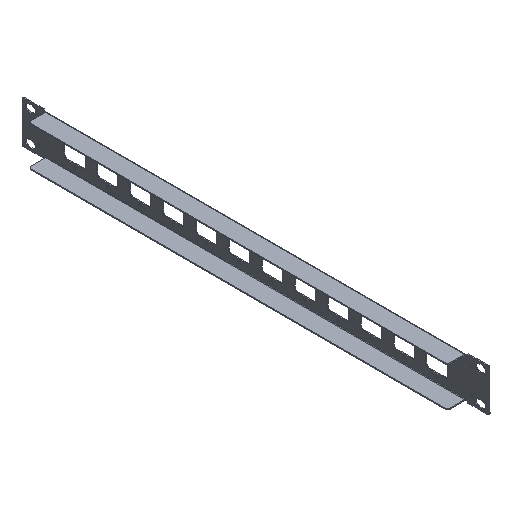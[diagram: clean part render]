
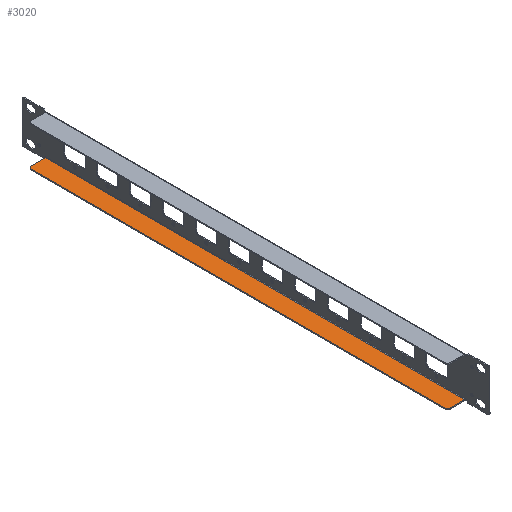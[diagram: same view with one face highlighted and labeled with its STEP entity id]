
A CAD part, isometric view. The second image highlights one B-rep face of the part: STEP entity #3020.
In plain terms, the highlighted planar face has unit normal (0, 0, 1).
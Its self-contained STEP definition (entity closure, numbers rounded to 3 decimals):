
#117 = VERTEX_POINT ( 'NONE', #1983 ) ;
#182 = PLANE ( 'NONE',  #1159 ) ;
#214 = CARTESIAN_POINT ( 'NONE',  ( 229.982, -114.898, -41.6 ) ) ;
#286 = DIRECTION ( 'NONE',  ( 0., 0., -1. ) ) ;
#515 = DIRECTION ( 'NONE',  ( 1., 0., 0. ) ) ;
#567 = DIRECTION ( 'NONE',  ( 1., 0., 0. ) ) ;
#575 = DIRECTION ( 'NONE',  ( 0., 1., 0. ) ) ;
#690 = FACE_OUTER_BOUND ( 'NONE', #3371, .T. ) ;
#886 = VECTOR ( 'NONE', #4156, 1000. ) ;
#960 = VECTOR ( 'NONE', #575, 1000. ) ;
#998 = EDGE_CURVE ( 'NONE', #2790, #6072, #1730, .T. ) ;
#1058 = CARTESIAN_POINT ( 'NONE',  ( 248.707, 318.302, -41.6 ) ) ;
#1159 = AXIS2_PLACEMENT_3D ( 'NONE', #1285, #4691, #1311 ) ;
#1278 = CARTESIAN_POINT ( 'NONE',  ( 232.982, -111.898, -41.6 ) ) ;
#1285 = CARTESIAN_POINT ( 'NONE',  ( 247.712, 318.302, -41.6 ) ) ;
#1298 = VERTEX_POINT ( 'NONE', #4985 ) ;
#1311 = DIRECTION ( 'NONE',  ( -1., 0., 0. ) ) ;
#1500 = ORIENTED_EDGE ( 'NONE', *, *, #6351, .F. ) ;
#1558 = VERTEX_POINT ( 'NONE', #4865 ) ;
#1647 = CARTESIAN_POINT ( 'NONE',  ( 232.982, -114.898, -41.6 ) ) ;
#1730 = CIRCLE ( 'NONE', #5012, 3. ) ;
#1783 = LINE ( 'NONE', #1058, #1949 ) ;
#1947 = ORIENTED_EDGE ( 'NONE', *, *, #4522, .T. ) ;
#1949 = VECTOR ( 'NONE', #4428, 1000. ) ;
#1977 = EDGE_CURVE ( 'NONE', #6523, #1558, #1783, .T. ) ;
#1983 = CARTESIAN_POINT ( 'NONE',  ( 247.582, -114.898, -41.6 ) ) ;
#2790 = VERTEX_POINT ( 'NONE', #1647 ) ;
#2847 = CARTESIAN_POINT ( 'NONE',  ( 248.707, -114.898, -41.6 ) ) ;
#3020 = ADVANCED_FACE ( 'NONE', ( #690 ), #182, .F. ) ;
#3261 = ORIENTED_EDGE ( 'NONE', *, *, #6677, .T. ) ;
#3371 = EDGE_LOOP ( 'NONE', ( #3261, #1947, #6054, #1500, #4610, #4304 ) ) ;
#3455 = EDGE_CURVE ( 'NONE', #6072, #1298, #6502, .T. ) ;
#3627 = AXIS2_PLACEMENT_3D ( 'NONE', #3651, #286, #4217 ) ;
#3651 = CARTESIAN_POINT ( 'NONE',  ( 232.982, 315.302, -41.6 ) ) ;
#3674 = DIRECTION ( 'NONE',  ( 0., 0., -1. ) ) ;
#4122 = LINE ( 'NONE', #6740, #960 ) ;
#4156 = DIRECTION ( 'NONE',  ( 0., 1., 0. ) ) ;
#4217 = DIRECTION ( 'NONE',  ( 1., 0., 0. ) ) ;
#4304 = ORIENTED_EDGE ( 'NONE', *, *, #998, .F. ) ;
#4366 = CARTESIAN_POINT ( 'NONE',  ( 247.582, 318.302, -41.6 ) ) ;
#4428 = DIRECTION ( 'NONE',  ( -1., 0., 0. ) ) ;
#4522 = EDGE_CURVE ( 'NONE', #117, #6523, #4122, .T. ) ;
#4610 = ORIENTED_EDGE ( 'NONE', *, *, #3455, .F. ) ;
#4691 = DIRECTION ( 'NONE',  ( 0., 0., -1. ) ) ;
#4865 = CARTESIAN_POINT ( 'NONE',  ( 232.982, 318.302, -41.6 ) ) ;
#4985 = CARTESIAN_POINT ( 'NONE',  ( 229.982, 315.302, -41.6 ) ) ;
#5012 = AXIS2_PLACEMENT_3D ( 'NONE', #1278, #3674, #515 ) ;
#5106 = VECTOR ( 'NONE', #567, 1000. ) ;
#6054 = ORIENTED_EDGE ( 'NONE', *, *, #1977, .T. ) ;
#6072 = VERTEX_POINT ( 'NONE', #6274 ) ;
#6274 = CARTESIAN_POINT ( 'NONE',  ( 229.982, -111.898, -41.6 ) ) ;
#6351 = EDGE_CURVE ( 'NONE', #1298, #1558, #7033, .T. ) ;
#6502 = LINE ( 'NONE', #214, #886 ) ;
#6523 = VERTEX_POINT ( 'NONE', #4366 ) ;
#6677 = EDGE_CURVE ( 'NONE', #2790, #117, #6773, .T. ) ;
#6740 = CARTESIAN_POINT ( 'NONE',  ( 247.582, -114.898, -41.6 ) ) ;
#6773 = LINE ( 'NONE', #2847, #5106 ) ;
#7033 = CIRCLE ( 'NONE', #3627, 3. ) ;
